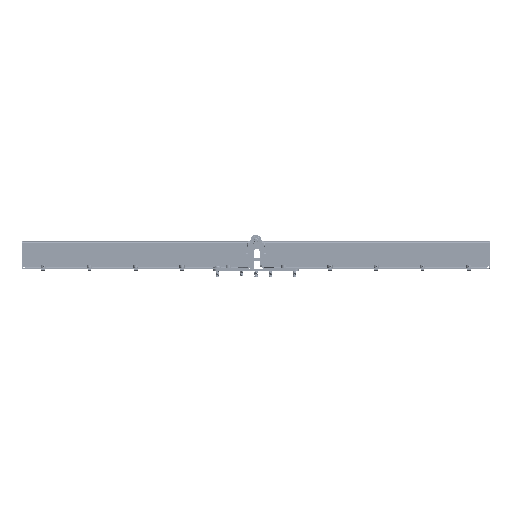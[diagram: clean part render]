
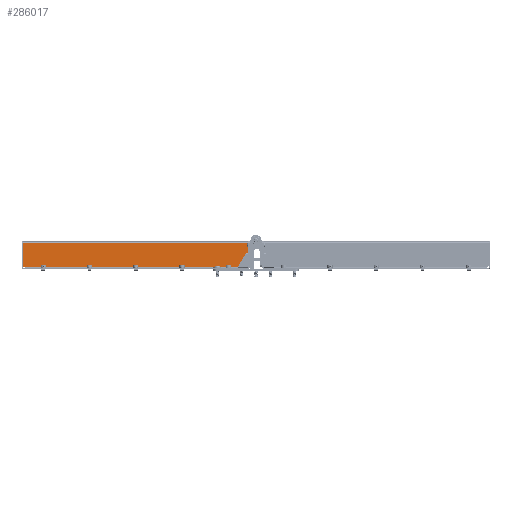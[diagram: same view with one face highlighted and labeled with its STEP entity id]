
A CAD part, top view. The second image highlights one B-rep face of the part: STEP entity #286017.
In plain terms, the highlighted planar face has unit normal (0, 0, 1).
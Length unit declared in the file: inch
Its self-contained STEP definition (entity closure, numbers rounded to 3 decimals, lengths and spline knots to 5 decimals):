
#843 = VERTEX_POINT ( 'NONE', #67669 ) ;
#3567 = CARTESIAN_POINT ( 'NONE',  ( -0.445, 2.04146, -2.4522 ) ) ;
#6156 = EDGE_CURVE ( 'NONE', #154004, #260098, #44239, .T. ) ;
#6830 = CARTESIAN_POINT ( 'NONE',  ( -16.01303, 0.2738, -2.4522 ) ) ;
#7493 = ORIENTED_EDGE ( 'NONE', *, *, #332456, .T. ) ;
#9681 = CARTESIAN_POINT ( 'NONE',  ( -16.01303, 2.04146, -2.4522 ) ) ;
#12314 = VECTOR ( 'NONE', #25803, 39.37008 ) ;
#12413 = DIRECTION ( 'NONE',  ( 0., -1., 0. ) ) ;
#19652 = CARTESIAN_POINT ( 'NONE',  ( -16.19303, 1.92146, -2.4522 ) ) ;
#24885 = CIRCLE ( 'NONE', #238808, 0.125 ) ;
#25803 = DIRECTION ( 'NONE',  ( 0., -1., 0. ) ) ;
#25937 = VERTEX_POINT ( 'NONE', #294081 ) ;
#28655 = CARTESIAN_POINT ( 'NONE',  ( -16.19303, 0.43, -2.4522 ) ) ;
#29832 = EDGE_CURVE ( 'NONE', #320346, #323172, #335200, .T. ) ;
#34602 = EDGE_CURVE ( 'NONE', #39239, #320346, #190579, .T. ) ;
#36367 = CIRCLE ( 'NONE', #151034, 0.0312 ) ;
#39239 = VERTEX_POINT ( 'NONE', #6830 ) ;
#41487 = VECTOR ( 'NONE', #156286, 39.37008 ) ;
#44239 = LINE ( 'NONE', #71598, #191435 ) ;
#45987 = VERTEX_POINT ( 'NONE', #330113 ) ;
#54160 = DIRECTION ( 'NONE',  ( 0., 0., -1. ) ) ;
#54734 = ORIENTED_EDGE ( 'NONE', *, *, #337175, .T. ) ;
#67669 = CARTESIAN_POINT ( 'NONE',  ( -0.625, 0.2738, -2.4522 ) ) ;
#71506 = DIRECTION ( 'NONE',  ( -1., 0., 0. ) ) ;
#71598 = CARTESIAN_POINT ( 'NONE',  ( -16.19303, 1.92146, -2.4522 ) ) ;
#73312 = EDGE_CURVE ( 'NONE', #323172, #843, #302760, .T. ) ;
#74664 = CARTESIAN_POINT ( 'NONE',  ( -0.445, 2.04146, -2.4522 ) ) ;
#85244 = CARTESIAN_POINT ( 'NONE',  ( -0.625, 2.04146, -2.4522 ) ) ;
#85974 = LINE ( 'NONE', #137241, #12314 ) ;
#87170 = DIRECTION ( 'NONE',  ( 0., 0., -1. ) ) ;
#91001 = VECTOR ( 'NONE', #250875, 39.37008 ) ;
#99740 = DIRECTION ( 'NONE',  ( 0., 0., 1. ) ) ;
#100399 = CARTESIAN_POINT ( 'NONE',  ( -16.06803, 0.305, -2.4522 ) ) ;
#102457 = DIRECTION ( 'NONE',  ( 0., 1., 0. ) ) ;
#104415 = CARTESIAN_POINT ( 'NONE',  ( -0.57, 0.43, -2.4522 ) ) ;
#110375 = AXIS2_PLACEMENT_3D ( 'NONE', #265400, #99740, #293085 ) ;
#112225 = ORIENTED_EDGE ( 'NONE', *, *, #6156, .T. ) ;
#112835 = VECTOR ( 'NONE', #331933, 39.37008 ) ;
#113221 = CARTESIAN_POINT ( 'NONE',  ( -16.04423, 0.305, -2.4522 ) ) ;
#113786 = PLANE ( 'NONE',  #162138 ) ;
#115122 = VECTOR ( 'NONE', #102457, 39.37008 ) ;
#117305 = CARTESIAN_POINT ( 'NONE',  ( -0.445, 0.305, -2.4522 ) ) ;
#127723 = LINE ( 'NONE', #117305, #339076 ) ;
#127746 = DIRECTION ( 'NONE',  ( 0., 0., -1. ) ) ;
#127981 = CIRCLE ( 'NONE', #180774, 0.0312 ) ;
#132247 = DIRECTION ( 'NONE',  ( 0., 1., 0. ) ) ;
#137241 = CARTESIAN_POINT ( 'NONE',  ( -16.19303, 2.04146, -2.4522 ) ) ;
#149861 = LINE ( 'NONE', #74664, #115122 ) ;
#151034 = AXIS2_PLACEMENT_3D ( 'NONE', #219828, #54160, #247674 ) ;
#152788 = CARTESIAN_POINT ( 'NONE',  ( -0.625, 0.245, -2.4522 ) ) ;
#154004 = VERTEX_POINT ( 'NONE', #344682 ) ;
#156286 = DIRECTION ( 'NONE',  ( 1., 0., 0. ) ) ;
#162138 = AXIS2_PLACEMENT_3D ( 'NONE', #3567, #87170, #280558 ) ;
#167421 = VERTEX_POINT ( 'NONE', #214612 ) ;
#171891 = EDGE_CURVE ( 'NONE', #167421, #25937, #24885, .T. ) ;
#178411 = ORIENTED_EDGE ( 'NONE', *, *, #171891, .T. ) ;
#180774 = AXIS2_PLACEMENT_3D ( 'NONE', #293263, #127746, #320805 ) ;
#190579 = LINE ( 'NONE', #9681, #328439 ) ;
#191435 = VECTOR ( 'NONE', #71506, 39.37008 ) ;
#195661 = EDGE_CURVE ( 'NONE', #260098, #252235, #85974, .T. ) ;
#208459 = VERTEX_POINT ( 'NONE', #113221 ) ;
#214612 = CARTESIAN_POINT ( 'NONE',  ( -0.57, 0.305, -2.4522 ) ) ;
#214675 = EDGE_CURVE ( 'NONE', #167421, #45987, #127723, .T. ) ;
#219828 = CARTESIAN_POINT ( 'NONE',  ( -0.5938, 0.2738, -2.4522 ) ) ;
#222456 = CARTESIAN_POINT ( 'NONE',  ( -0.445, 0.305, -2.4522 ) ) ;
#225156 = CARTESIAN_POINT ( 'NONE',  ( -0.625, 0.245, -2.4522 ) ) ;
#225797 = ORIENTED_EDGE ( 'NONE', *, *, #195661, .T. ) ;
#231442 = EDGE_CURVE ( 'NONE', #25937, #154004, #149861, .T. ) ;
#233826 = CIRCLE ( 'NONE', #110375, 0.125 ) ;
#233968 = EDGE_LOOP ( 'NONE', ( #296783, #178411, #251721, #112225, #225797, #346895, #54734, #7493, #319442, #325073, #254642, #246309 ) ) ;
#236280 = FACE_OUTER_BOUND ( 'NONE', #233968, .T. ) ;
#238808 = AXIS2_PLACEMENT_3D ( 'NONE', #104415, #297696, #132247 ) ;
#246309 = ORIENTED_EDGE ( 'NONE', *, *, #334532, .T. ) ;
#247674 = DIRECTION ( 'NONE',  ( 0., 1., 0. ) ) ;
#250875 = DIRECTION ( 'NONE',  ( 0., 1., 0. ) ) ;
#251721 = ORIENTED_EDGE ( 'NONE', *, *, #231442, .T. ) ;
#252235 = VERTEX_POINT ( 'NONE', #28655 ) ;
#254642 = ORIENTED_EDGE ( 'NONE', *, *, #73312, .T. ) ;
#260098 = VERTEX_POINT ( 'NONE', #19652 ) ;
#265400 = CARTESIAN_POINT ( 'NONE',  ( -16.06803, 0.43, -2.4522 ) ) ;
#280558 = DIRECTION ( 'NONE',  ( 0., 1., 0. ) ) ;
#286017 = ADVANCED_FACE ( 'NONE', ( #236280 ), #113786, .F. ) ;
#291338 = VERTEX_POINT ( 'NONE', #100399 ) ;
#293085 = DIRECTION ( 'NONE',  ( 0., 1., 0. ) ) ;
#293263 = CARTESIAN_POINT ( 'NONE',  ( -16.04423, 0.2738, -2.4522 ) ) ;
#294081 = CARTESIAN_POINT ( 'NONE',  ( -0.445, 0.43, -2.4522 ) ) ;
#296783 = ORIENTED_EDGE ( 'NONE', *, *, #214675, .F. ) ;
#297696 = DIRECTION ( 'NONE',  ( 0., 0., 1. ) ) ;
#302760 = LINE ( 'NONE', #85244, #91001 ) ;
#310428 = DIRECTION ( 'NONE',  ( -1., 0., 0. ) ) ;
#319442 = ORIENTED_EDGE ( 'NONE', *, *, #34602, .T. ) ;
#320346 = VERTEX_POINT ( 'NONE', #327893 ) ;
#320805 = DIRECTION ( 'NONE',  ( 0., 1., 0. ) ) ;
#323172 = VERTEX_POINT ( 'NONE', #225156 ) ;
#325073 = ORIENTED_EDGE ( 'NONE', *, *, #29832, .T. ) ;
#327893 = CARTESIAN_POINT ( 'NONE',  ( -16.01303, 0.245, -2.4522 ) ) ;
#328439 = VECTOR ( 'NONE', #12413, 39.37008 ) ;
#330113 = CARTESIAN_POINT ( 'NONE',  ( -0.5938, 0.305, -2.4522 ) ) ;
#331933 = DIRECTION ( 'NONE',  ( 1., 0., 0. ) ) ;
#332456 = EDGE_CURVE ( 'NONE', #208459, #39239, #127981, .T. ) ;
#332922 = LINE ( 'NONE', #222456, #112835 ) ;
#334532 = EDGE_CURVE ( 'NONE', #843, #45987, #36367, .T. ) ;
#335200 = LINE ( 'NONE', #152788, #41487 ) ;
#337175 = EDGE_CURVE ( 'NONE', #291338, #208459, #332922, .T. ) ;
#339076 = VECTOR ( 'NONE', #310428, 39.37008 ) ;
#344682 = CARTESIAN_POINT ( 'NONE',  ( -0.445, 1.92146, -2.4522 ) ) ;
#346895 = ORIENTED_EDGE ( 'NONE', *, *, #350207, .T. ) ;
#350207 = EDGE_CURVE ( 'NONE', #252235, #291338, #233826, .T. ) ;
